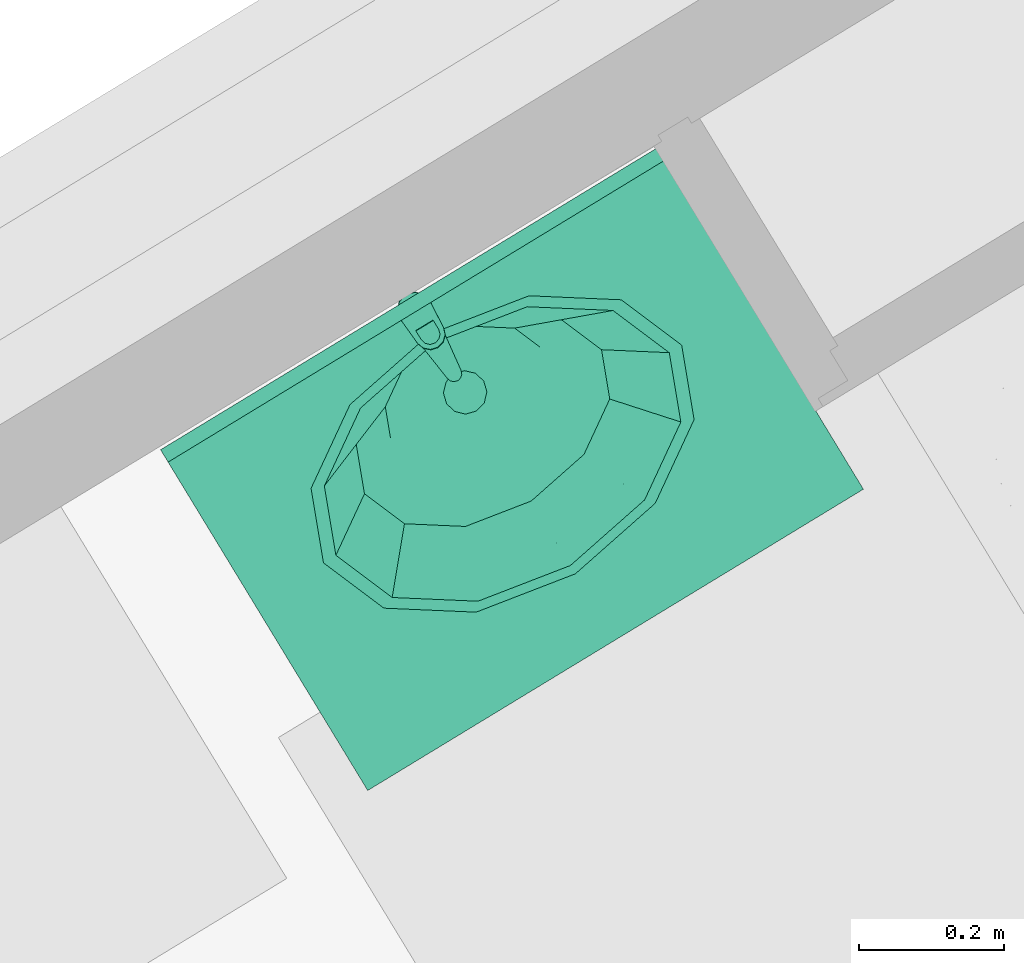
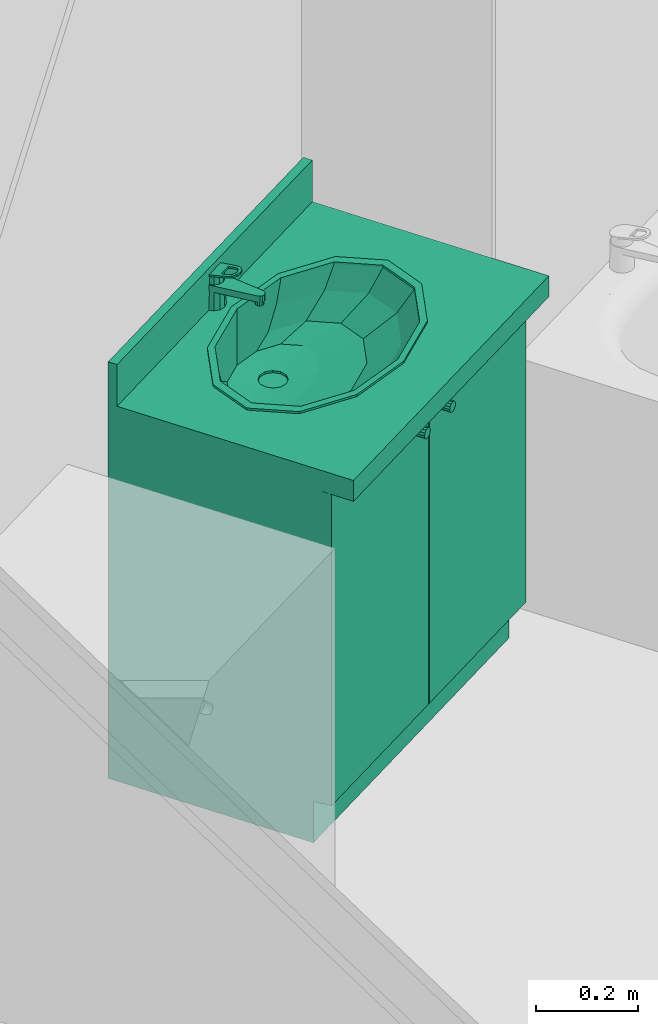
# One storey, part 84 of 90: 1 flow terminal.
"""IFC2X3 building model written with IfcOpenShell, lengths in metres."""

from ifc_helpers import new_model, entity, si_unit, converted_unit, derived_unit, money_unit, direction, frame, origin_with_axes, place, context, subcontext, project, spatial, open_shell, faceted_brep, surface_model, source, transform, mapped, type_object, element, save


model = new_model("IFC2X3")

# Units and contexts
model_context = context("Model", 3, precision=1e-05, world=origin_with_axes(), true_north=direction((0.0, 1.0)))
body_context = subcontext(model_context, "Body", "Model", "MODEL_VIEW")
ifc_project = project(units=[si_unit("LENGTHUNIT", "METRE"), si_unit("AREAUNIT", "SQUARE_METRE"), si_unit("VOLUMEUNIT", "CUBIC_METRE"), converted_unit("PLANEANGLEUNIT", "DEGREE", entity("IfcPlaneAngleMeasure", 0.0174532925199), si_unit("PLANEANGLEUNIT", "RADIAN"), dimensions=[0, 0, 0, 0, 0, 0, 0]), si_unit("SOLIDANGLEUNIT", "STERADIAN"), money_unit("EUR"), converted_unit("TIMEUNIT", "Year", entity("IfcTimeMeasure", 31556926.0), si_unit("TIMEUNIT", "SECOND"), dimensions=[0, 0, 1, 0, 0, 0, 0]), si_unit("MASSUNIT", "GRAM", prefix="KILO"), si_unit("THERMODYNAMICTEMPERATUREUNIT", "DEGREE_CELSIUS"), si_unit("LUMINOUSINTENSITYUNIT", "LUMEN"), si_unit("ENERGYUNIT", "JOULE", prefix="MEGA"), derived_unit("THERMALCONDUCTANCEUNIT", [(si_unit("POWERUNIT", "WATT"), 1), (si_unit("LENGTHUNIT", "METRE"), -1), (si_unit("THERMODYNAMICTEMPERATUREUNIT", "KELVIN"), -1)]), derived_unit("SPECIFICHEATCAPACITYUNIT", [(si_unit("ENERGYUNIT", "JOULE"), 1), (si_unit("MASSUNIT", "GRAM", prefix="KILO"), -1), (si_unit("THERMODYNAMICTEMPERATUREUNIT", "KELVIN"), -1)]), derived_unit("MASSDENSITYUNIT", [(si_unit("MASSUNIT", "GRAM", prefix="KILO"), 1), (si_unit("VOLUMEUNIT", "CUBIC_METRE"), -1)])], contexts=[model_context])

# Site, building, storey
site_placement = place(None, origin_with_axes())
site = spatial("IfcSite", under=ifc_project, at=site_placement, Name="Site", CompositionType="ELEMENT")
building_placement = place(site_placement, origin_with_axes())
building = spatial("IfcBuilding", under=site, at=building_placement, Name="Bâtiment", CompositionType="ELEMENT")
storey_placement = place(building_placement, frame((0.0, 0.0, 2.72), z_axis=(0.0, 0.0, 1.0), x_axis=(1.0, 0.0, 0.0)))
storey = spatial("IfcBuildingStorey", under=building, at=storey_placement, Name="R+1", CompositionType="ELEMENT", Elevation=2.72)

# Flow terminal
sanitary_terminal_type = type_object("IfcSanitaryTerminalType", Name="Lavabo sur meuble 23", PredefinedType="NOTDEFINED")
shared_shape = source(origin_with_axes(), body_context, "Body", "SurfaceModel", [
    faceted_brep([(0.0, 0.09, 0.0), (0.8, 0.09, 0.0), (0.8, 0.09, 0.1), (0.0, 0.09, 0.1), (0.0, 0.55, 0.0), (0.8, 0.55, 0.0), (0.8, 0.55, 0.1), (0.0, 0.55, 0.1)], [[[0, 1, 2, 3]], [[0, 4, 5, 1]], [[1, 5, 6, 2]], [[3, 2, 6, 7]], [[4, 0, 3, 7]], [[5, 4, 7, 6]]]),
    faceted_brep([(0.0, 0.07, 0.1), (0.02, 0.07, 0.1), (0.02, 0.07, 0.12), (0.0, 0.07, 0.12), (0.0, 0.55, 0.1), (0.02, 0.55, 0.1), (0.78, 0.55, 0.1), (0.8, 0.55, 0.1), (0.8, 0.07, 0.1), (0.78, 0.07, 0.1), (0.78, 0.07, 0.12), (0.8, 0.07, 0.12), (0.8, 0.55, 0.12), (0.78, 0.55, 0.12), (0.02, 0.55, 0.12), (0.0, 0.55, 0.12)], [[[0, 1, 2, 3]], [[0, 4, 5, 6, 7, 8, 9, 1]], [[1, 9, 10, 2]], [[3, 2, 10, 11, 12, 13, 14, 15]], [[4, 0, 3, 15]], [[5, 4, 15, 14]], [[6, 5, 14, 13]], [[7, 6, 13, 12]], [[8, 7, 12, 11]], [[9, 8, 11, 10]]]),
    faceted_brep([(0.0, 0.07, 0.12), (0.02, 0.07, 0.12), (0.02, 0.07, 0.85), (0.0, 0.07, 0.85), (0.0, 0.55, 0.12), (0.8, 0.55, 0.12), (0.8, 0.07, 0.12), (0.78, 0.07, 0.12), (0.78, 0.53, 0.12), (0.02, 0.53, 0.12), (0.02, 0.53, 0.85), (0.78, 0.53, 0.85), (0.78, 0.07, 0.85), (0.8, 0.07, 0.85), (0.8, 0.55, 0.85), (0.0, 0.55, 0.85)], [[[0, 1, 2, 3]], [[0, 4, 5, 6, 7, 8, 9, 1]], [[1, 9, 10, 2]], [[3, 2, 10, 11, 12, 13, 14, 15]], [[4, 0, 3, 15]], [[5, 4, 15, 14]], [[6, 5, 14, 13]], [[7, 6, 13, 12]], [[8, 7, 12, 11]], [[9, 8, 11, 10]]]),
    faceted_brep([(0.78, 0.07, 0.323333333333), (0.78, 0.53, 0.323333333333), (0.78, 0.53, 0.343333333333), (0.78, 0.07, 0.343333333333), (0.02, 0.07, 0.323333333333), (0.02, 0.53, 0.323333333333), (0.02, 0.53, 0.343333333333), (0.02, 0.07, 0.343333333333)], [[[0, 1, 2, 3]], [[0, 4, 5, 1]], [[1, 5, 6, 2]], [[3, 2, 6, 7]], [[4, 0, 3, 7]], [[5, 4, 7, 6]]]),
    faceted_brep([(0.78, 0.07, 0.566666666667), (0.78, 0.53, 0.566666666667), (0.78, 0.53, 0.586666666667), (0.78, 0.07, 0.586666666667), (0.02, 0.07, 0.566666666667), (0.02, 0.53, 0.566666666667), (0.02, 0.53, 0.586666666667), (0.02, 0.07, 0.586666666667)], [[[0, 1, 2, 3]], [[0, 4, 5, 1]], [[1, 5, 6, 2]], [[3, 2, 6, 7]], [[4, 0, 3, 7]], [[5, 4, 7, 6]]]),
    faceted_brep([(0.0, 0.55, 0.85), (0.8, 0.55, 0.85), (0.8, 0.0, 0.85), (0.0, 0.0, 0.85), (0.535, 0.144115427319, 0.85), (0.633826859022, 0.21, 0.85), (0.67, 0.3, 0.85), (0.633826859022, 0.39, 0.85), (0.535, 0.455884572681, 0.85), (0.4, 0.48, 0.85), (0.265, 0.455884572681, 0.85), (0.166173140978, 0.39, 0.85), (0.13, 0.3, 0.85), (0.166173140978, 0.21, 0.85), (0.265, 0.144115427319, 0.85), (0.4, 0.12, 0.85), (0.0, 0.55, 0.9), (0.8, 0.55, 0.9), (0.8, 0.0, 0.9), (0.0, 0.0, 0.9), (0.535, 0.144115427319, 0.9), (0.633826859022, 0.21, 0.9), (0.67, 0.3, 0.9), (0.633826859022, 0.39, 0.9), (0.535, 0.455884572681, 0.9), (0.4, 0.48, 0.9), (0.265, 0.455884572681, 0.9), (0.166173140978, 0.39, 0.9), (0.13, 0.3, 0.9), (0.166173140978, 0.21, 0.9), (0.265, 0.144115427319, 0.9), (0.4, 0.12, 0.9)], [[[0, 1, 2, 3], [4, 5, 6, 7, 8, 9, 10, 11, 12, 13, 14, 15]], [[0, 16, 17, 1]], [[1, 17, 18, 2]], [[2, 18, 19, 3]], [[3, 19, 16, 0]], [[20, 21, 5, 4]], [[21, 22, 6, 5]], [[22, 23, 7, 6]], [[23, 24, 8, 7]], [[24, 25, 9, 8]], [[25, 26, 10, 9]], [[26, 27, 11, 10]], [[27, 28, 12, 11]], [[28, 29, 13, 12]], [[29, 30, 14, 13]], [[30, 31, 15, 14]], [[31, 20, 4, 15]], [[18, 17, 16, 19], [24, 23, 22, 21, 20, 31, 30, 29, 28, 27, 26, 25]]]),
    faceted_brep([(0.0, 0.53, 0.9), (0.8, 0.53, 0.9), (0.8, 0.53, 1.0), (0.0, 0.53, 1.0), (0.0, 0.55, 0.9), (0.8, 0.55, 0.9), (0.8, 0.55, 1.0), (0.0, 0.55, 1.0)], [[[0, 1, 2, 3]], [[0, 4, 5, 1]], [[1, 5, 6, 2]], [[3, 2, 6, 7]], [[4, 0, 3, 7]], [[5, 4, 7, 6]]]),
    faceted_brep([(0.689, 0.3, 0.905), (0.689, 0.3, 0.9), (0.650281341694, 0.396691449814, 0.9), (0.650281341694, 0.396691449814, 0.905), (0.650281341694, 0.203308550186, 0.905), (0.650281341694, 0.203308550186, 0.9), (0.5445, 0.132525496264, 0.9), (0.4, 0.106617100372, 0.9), (0.2555, 0.132525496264, 0.9), (0.149718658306, 0.203308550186, 0.9), (0.111, 0.3, 0.9), (0.149718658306, 0.396691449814, 0.9), (0.2555, 0.467474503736, 0.9), (0.4, 0.493382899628, 0.9), (0.5445, 0.467474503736, 0.9), (0.669, 0.3, 0.9), (0.632960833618, 0.39, 0.9), (0.5345, 0.455884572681, 0.9), (0.4, 0.48, 0.9), (0.2655, 0.455884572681, 0.9), (0.167039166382, 0.39, 0.9), (0.131, 0.3, 0.9), (0.167039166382, 0.21, 0.9), (0.2655, 0.144115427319, 0.9), (0.4, 0.12, 0.9), (0.5345, 0.144115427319, 0.9), (0.632960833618, 0.21, 0.9), (0.5445, 0.467474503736, 0.905), (0.4, 0.493382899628, 0.905), (0.2555, 0.467474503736, 0.905), (0.149718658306, 0.396691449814, 0.905), (0.111, 0.3, 0.905), (0.149718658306, 0.203308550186, 0.905), (0.2555, 0.132525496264, 0.905), (0.4, 0.106617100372, 0.905), (0.5445, 0.132525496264, 0.905), (0.669, 0.3, 0.905), (0.632960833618, 0.21, 0.905), (0.5345, 0.144115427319, 0.905), (0.4, 0.12, 0.905), (0.2655, 0.144115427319, 0.905), (0.167039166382, 0.21, 0.905), (0.131, 0.3, 0.905), (0.167039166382, 0.39, 0.905), (0.2655, 0.455884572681, 0.905), (0.4, 0.48, 0.905), (0.5345, 0.455884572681, 0.905), (0.632960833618, 0.39, 0.905)], [[[0, 1, 2, 3]], [[4, 5, 1, 0]], [[1, 5, 6, 7, 8, 9, 10, 11, 12, 13, 14, 2], [15, 16, 17, 18, 19, 20, 21, 22, 23, 24, 25, 26]], [[3, 2, 14, 27]], [[0, 3, 27, 28, 29, 30, 31, 32, 33, 34, 35, 4], [36, 37, 38, 39, 40, 41, 42, 43, 44, 45, 46, 47]], [[35, 6, 5, 4]], [[34, 7, 6, 35]], [[33, 8, 7, 34]], [[32, 9, 8, 33]], [[31, 10, 9, 32]], [[30, 11, 10, 31]], [[29, 12, 11, 30]], [[28, 13, 12, 29]], [[27, 14, 13, 28]], [[47, 16, 15, 36]], [[46, 17, 16, 47]], [[45, 18, 17, 46]], [[44, 19, 18, 45]], [[43, 20, 19, 44]], [[42, 21, 20, 43]], [[41, 22, 21, 42]], [[40, 23, 22, 41]], [[39, 24, 23, 40]], [[38, 25, 24, 39]], [[37, 26, 25, 38]], [[36, 15, 26, 37]]]),
    surface_model("IfcShellBasedSurfaceModel", [(0.4, 0.48, 0.9), (0.4, 0.48, 0.848), (0.52105, 0.458296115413, 0.848), (0.5345, 0.455884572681, 0.9), (0.2655, 0.455884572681, 0.9), (0.27895, 0.458296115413, 0.848), (0.609664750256, 0.399, 0.848), (0.632960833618, 0.39, 0.9), (0.167039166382, 0.39, 0.9), (0.190335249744, 0.399, 0.848), (0.6421, 0.318, 0.848), (0.669, 0.3, 0.9), (0.131, 0.3, 0.9), (0.1579, 0.318, 0.848), (0.609664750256, 0.237, 0.848), (0.632960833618, 0.21, 0.9), (0.167039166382, 0.21, 0.9), (0.190335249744, 0.237, 0.848), (0.52105, 0.177703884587, 0.848), (0.5345, 0.144115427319, 0.9), (0.2655, 0.144115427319, 0.9), (0.27895, 0.177703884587, 0.848), (0.4, 0.156, 0.848), (0.4, 0.12, 0.9)], [open_shell([[[0, 1, 2, 3]], [[4, 5, 1, 0]], [[3, 2, 6, 7]], [[8, 9, 5, 4]], [[7, 6, 10, 11]], [[12, 13, 9, 8]], [[11, 10, 14, 15]], [[16, 17, 13, 12]], [[15, 14, 18, 19]], [[20, 21, 17, 16]], [[19, 18, 22, 23]], [[23, 22, 21, 20]]])]),
    surface_model("IfcShellBasedSurfaceModel", [(0.4, 0.48, 0.848), (0.4, 0.48, 0.796), (0.4956295, 0.462853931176, 0.796), (0.52105, 0.458296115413, 0.848), (0.27895, 0.458296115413, 0.848), (0.3043705, 0.462853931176, 0.796), (0.565635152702, 0.41601, 0.796), (0.609664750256, 0.399, 0.848), (0.190335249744, 0.399, 0.848), (0.234364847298, 0.41601, 0.796), (0.591259, 0.35202, 0.796), (0.6421, 0.318, 0.848), (0.1579, 0.318, 0.848), (0.208741, 0.35202, 0.796), (0.565635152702, 0.28803, 0.796), (0.609664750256, 0.237, 0.848), (0.190335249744, 0.237, 0.848), (0.234364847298, 0.28803, 0.796), (0.4956295, 0.241186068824, 0.796), (0.52105, 0.177703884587, 0.848), (0.27895, 0.177703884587, 0.848), (0.3043705, 0.241186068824, 0.796), (0.4, 0.22404, 0.796), (0.4, 0.156, 0.848)], [open_shell([[[0, 1, 2, 3]], [[4, 5, 1, 0]], [[3, 2, 6, 7]], [[8, 9, 5, 4]], [[7, 6, 10, 11]], [[12, 13, 9, 8]], [[11, 10, 14, 15]], [[16, 17, 13, 12]], [[15, 14, 18, 19]], [[20, 21, 17, 16]], [[19, 18, 22, 23]], [[23, 22, 21, 20]]])]),
    surface_model("IfcShellBasedSurfaceModel", [(0.4, 0.48, 0.796), (0.4, 0.48, 0.77), (0.460246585, 0.469197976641, 0.77), (0.4956295, 0.462853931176, 0.796), (0.3043705, 0.462853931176, 0.796), (0.339753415, 0.469197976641, 0.77), (0.504350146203, 0.4396863, 0.77), (0.565635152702, 0.41601, 0.796), (0.234364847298, 0.41601, 0.796), (0.295649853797, 0.4396863, 0.77), (0.52049317, 0.3993726, 0.77), (0.591259, 0.35202, 0.796), (0.208741, 0.35202, 0.796), (0.27950683, 0.3993726, 0.77), (0.504350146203, 0.3590589, 0.77), (0.565635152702, 0.28803, 0.796), (0.234364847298, 0.28803, 0.796), (0.295649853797, 0.3590589, 0.77), (0.460246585, 0.329547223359, 0.77), (0.4956295, 0.241186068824, 0.796), (0.3043705, 0.241186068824, 0.796), (0.339753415, 0.329547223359, 0.77), (0.4, 0.3187452, 0.77), (0.4, 0.22404, 0.796)], [open_shell([[[0, 1, 2, 3]], [[4, 5, 1, 0]], [[3, 2, 6, 7]], [[8, 9, 5, 4]], [[7, 6, 10, 11]], [[12, 13, 9, 8]], [[11, 10, 14, 15]], [[16, 17, 13, 12]], [[15, 14, 18, 19]], [[20, 21, 17, 16]], [[19, 18, 22, 23]], [[23, 22, 21, 20]]])]),
    surface_model("IfcShellBasedSurfaceModel", [(0.4, 0.48, 0.77), (0.415, 0.425353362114, 0.763), (0.460246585, 0.469197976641, 0.77), (0.4, 0.4293726, 0.763), (0.425980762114, 0.4143726, 0.763), (0.339753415, 0.469197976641, 0.77), (0.504350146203, 0.4396863, 0.77), (0.385, 0.425353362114, 0.763), (0.43, 0.3993726, 0.763), (0.295649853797, 0.4396863, 0.77), (0.52049317, 0.3993726, 0.77), (0.374019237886, 0.4143726, 0.763), (0.425980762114, 0.3843726, 0.763), (0.27950683, 0.3993726, 0.77), (0.504350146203, 0.3590589, 0.77), (0.37, 0.3993726, 0.763), (0.415, 0.373391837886, 0.763), (0.295649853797, 0.3590589, 0.77), (0.460246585, 0.329547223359, 0.77), (0.374019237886, 0.3843726, 0.763), (0.4, 0.3693726, 0.763), (0.339753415, 0.329547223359, 0.77), (0.4, 0.3187452, 0.77), (0.385, 0.373391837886, 0.763)], [open_shell([[[0, 1, 2]], [[0, 3, 1]], [[2, 1, 4]], [[5, 3, 0]], [[2, 4, 6]], [[5, 7, 3]], [[6, 4, 8]], [[9, 7, 5]], [[6, 8, 10]], [[9, 11, 7]], [[10, 8, 12]], [[13, 11, 9]], [[10, 12, 14]], [[13, 15, 11]], [[14, 12, 16]], [[17, 15, 13]], [[14, 16, 18]], [[17, 19, 15]], [[18, 16, 20]], [[21, 19, 17]], [[18, 20, 22]], [[21, 23, 19]], [[22, 20, 23]], [[22, 23, 21]]])]),
    surface_model("IfcShellBasedSurfaceModel", [(0.43, 0.3993726, 0.763), (0.43, 0.3993726, 0.758), (0.425980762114, 0.4143726, 0.758), (0.425980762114, 0.4143726, 0.763), (0.425980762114, 0.3843726, 0.763), (0.425980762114, 0.3843726, 0.758), (0.415, 0.373391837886, 0.758), (0.4, 0.3693726, 0.758), (0.385, 0.373391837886, 0.758), (0.374019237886, 0.3843726, 0.758), (0.37, 0.3993726, 0.758), (0.374019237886, 0.4143726, 0.758), (0.385, 0.425353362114, 0.758), (0.4, 0.4293726, 0.758), (0.415, 0.425353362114, 0.758), (0.415, 0.425353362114, 0.763), (0.415, 0.373391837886, 0.763), (0.4, 0.3693726, 0.763), (0.385, 0.373391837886, 0.763), (0.374019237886, 0.3843726, 0.763), (0.37, 0.3993726, 0.763), (0.374019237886, 0.4143726, 0.763), (0.385, 0.425353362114, 0.763), (0.4, 0.4293726, 0.763)], [open_shell([[[0, 1, 2, 3]], [[4, 5, 1, 0]], [[1, 5, 6, 7, 8, 9, 10, 11, 12, 13, 14, 2]], [[3, 2, 14, 15]], [[16, 6, 5, 4]], [[17, 7, 6, 16]], [[18, 8, 7, 17]], [[19, 9, 8, 18]], [[20, 10, 9, 19]], [[21, 11, 10, 20]], [[22, 12, 11, 21]], [[23, 13, 12, 22]], [[15, 14, 13, 23]]])]),
    faceted_brep([(0.4125, 0.554150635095, 0.9), (0.4, 0.5575, 0.9), (0.4, 0.553701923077, 0.975961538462), (0.410587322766, 0.550837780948, 0.976507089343), (0.421650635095, 0.545, 0.9), (0.425, 0.5325, 0.9), (0.421650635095, 0.52, 0.9), (0.4125, 0.510849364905, 0.9), (0.4, 0.5075, 0.9), (0.3875, 0.510849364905, 0.9), (0.378349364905, 0.52, 0.9), (0.375, 0.5325, 0.9), (0.378349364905, 0.545, 0.9), (0.3875, 0.554150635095, 0.9), (0.389412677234, 0.550837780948, 0.976507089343), (0.381726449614, 0.543050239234, 0.977990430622), (0.379, 0.5325, 0.98), (0.381899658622, 0.522049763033, 0.981990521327), (0.389585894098, 0.514462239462, 0.983435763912), (0.4, 0.511698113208, 0.983962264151), (0.410414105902, 0.514462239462, 0.983435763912), (0.418100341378, 0.522049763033, 0.981990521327), (0.421, 0.5325, 0.98), (0.418273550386, 0.543050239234, 0.977990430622)], [[[0, 1, 2, 3]], [[0, 4, 5, 6, 7, 8, 9, 10, 11, 12, 13, 1]], [[1, 13, 14, 2]], [[3, 2, 14, 15, 16, 17, 18, 19, 20, 21, 22, 23]], [[4, 0, 3, 23]], [[5, 4, 23, 22]], [[6, 5, 22, 21]], [[7, 6, 21, 20]], [[8, 7, 20, 19]], [[9, 8, 19, 18]], [[10, 9, 18, 17]], [[11, 10, 17, 16]], [[12, 11, 16, 15]], [[13, 12, 15, 14]]]),
    faceted_brep([(0.409, 0.4295, 0.935), (0.407794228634, 0.434, 0.935), (0.407794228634, 0.434, 0.945), (0.409, 0.4295, 0.945), (0.407794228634, 0.425, 0.935), (0.4045, 0.421705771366, 0.935), (0.4, 0.4205, 0.935), (0.3955, 0.421705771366, 0.935), (0.392205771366, 0.425, 0.935), (0.391, 0.4295, 0.935), (0.392205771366, 0.434, 0.935), (0.3955, 0.437294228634, 0.935), (0.4, 0.4385, 0.935), (0.4045, 0.437294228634, 0.935), (0.4045, 0.437294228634, 0.945), (0.4, 0.4385, 0.945), (0.3955, 0.437294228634, 0.945), (0.392205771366, 0.434, 0.945), (0.391, 0.4295, 0.945), (0.392205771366, 0.425, 0.945), (0.3955, 0.421705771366, 0.945), (0.4, 0.4205, 0.945), (0.4045, 0.421705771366, 0.945), (0.407794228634, 0.425, 0.945)], [[[0, 1, 2, 3]], [[0, 4, 5, 6, 7, 8, 9, 10, 11, 12, 13, 1]], [[1, 13, 14, 2]], [[3, 2, 14, 15, 16, 17, 18, 19, 20, 21, 22, 23]], [[4, 0, 3, 23]], [[5, 4, 23, 22]], [[6, 5, 22, 21]], [[7, 6, 21, 20]], [[8, 7, 20, 19]], [[9, 8, 19, 18]], [[10, 9, 18, 17]], [[11, 10, 17, 16]], [[12, 11, 16, 15]], [[13, 12, 15, 14]]]),
    faceted_brep([(0.387128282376, 0.552756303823, 0.96), (0.378272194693, 0.54269320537, 0.96), (0.3761946, 0.5294501, 0.96), (0.389088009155, 0.428111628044, 0.96), (0.390971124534, 0.423216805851, 0.96), (0.394906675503, 0.419750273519, 0.96), (0.400000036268, 0.41850003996, 0.96), (0.405093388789, 0.419750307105, 0.96), (0.409028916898, 0.423216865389, 0.96), (0.410912, 0.4281117, 0.96), (0.423805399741, 0.529450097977, 0.96), (0.421727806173, 0.542693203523, 0.96), (0.412871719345, 0.552756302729, 0.96), (0.40000000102, 0.556499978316, 0.96), (0.411, 0.551552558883, 0.96), (0.419052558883, 0.5435, 0.96), (0.422, 0.5325, 0.96), (0.419052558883, 0.5215, 0.96), (0.411, 0.513447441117, 0.96), (0.4, 0.5105, 0.96), (0.389, 0.513447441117, 0.96), (0.380947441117, 0.5215, 0.96), (0.378, 0.5325, 0.96), (0.380947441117, 0.5435, 0.96), (0.389, 0.551552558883, 0.96), (0.4, 0.5545, 0.96), (0.378272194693, 0.54269320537, 0.945), (0.387128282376, 0.552756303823, 0.945), (0.3761946, 0.5294501, 0.945), (0.389088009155, 0.428111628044, 0.945), (0.390971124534, 0.423216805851, 0.945), (0.394906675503, 0.419750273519, 0.945), (0.400000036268, 0.41850003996, 0.945), (0.405093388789, 0.419750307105, 0.945), (0.409028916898, 0.423216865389, 0.945), (0.410912, 0.4281117, 0.945), (0.423805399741, 0.529450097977, 0.945), (0.421727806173, 0.542693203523, 0.945), (0.412871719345, 0.552756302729, 0.945), (0.40000000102, 0.556499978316, 0.945), (0.411375, 0.552202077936, 0.945), (0.419702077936, 0.543875, 0.945), (0.42275, 0.5325, 0.945), (0.419702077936, 0.521125, 0.945), (0.411375, 0.512797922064, 0.945), (0.4, 0.50975, 0.945), (0.388625, 0.512797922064, 0.945), (0.380297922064, 0.521125, 0.945), (0.37725, 0.5325, 0.945), (0.380297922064, 0.543875, 0.945), (0.388625, 0.552202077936, 0.945), (0.4, 0.55525, 0.945)], [[[0, 1, 2, 3, 4, 5, 6, 7, 8, 9, 10, 11, 12, 13], [14, 15, 16, 17, 18, 19, 20, 21, 22, 23, 24, 25]], [[26, 1, 0, 27]], [[28, 2, 1, 26]], [[29, 3, 2, 28]], [[30, 4, 3, 29]], [[31, 5, 4, 30]], [[32, 6, 5, 31]], [[33, 7, 6, 32]], [[34, 8, 7, 33]], [[35, 9, 8, 34]], [[36, 10, 9, 35]], [[37, 11, 10, 36]], [[38, 12, 11, 37]], [[39, 13, 12, 38]], [[27, 0, 13, 39]], [[40, 41, 15, 14]], [[41, 42, 16, 15]], [[42, 43, 17, 16]], [[43, 44, 18, 17]], [[44, 45, 19, 18]], [[20, 19, 45, 46]], [[21, 20, 46, 47]], [[22, 21, 47, 48]], [[23, 22, 48, 49]], [[24, 23, 49, 50]], [[50, 51, 25, 24]], [[51, 40, 14, 25]], [[32, 31, 30, 29, 28, 26, 27, 39, 38, 37, 36, 35, 34, 33], [44, 43, 42, 41, 40, 51, 50, 49, 48, 47, 46, 45]]]),
    faceted_brep([(0.423893, 0.53080743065, 0.980322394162), (0.421296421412, 0.543274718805, 0.977947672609), (0.421296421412, 0.544023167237, 0.981877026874), (0.423893, 0.531555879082, 0.984251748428), (0.420945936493, 0.490663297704, 0.987968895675), (0.417663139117, 0.480985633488, 0.989812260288), (0.410061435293, 0.474036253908, 0.991135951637), (0.399999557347, 0.47151438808, 0.991616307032), (0.389937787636, 0.474036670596, 0.991135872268), (0.382336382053, 0.480986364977, 0.989812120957), (0.379054, 0.490664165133, 0.987968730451), (0.376106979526, 0.530807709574, 0.980322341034), (0.378703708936, 0.543274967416, 0.977947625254), (0.38752831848, 0.552591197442, 0.976173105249), (0.400000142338, 0.556031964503, 0.975517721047), (0.41247192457, 0.552591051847, 0.976173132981), (0.414, 0.506959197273, 0.984864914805), (0.386, 0.506959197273, 0.984864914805), (0.386, 0.492143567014, 0.987686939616), (0.387875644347, 0.485267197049, 0.988996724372), (0.393, 0.480233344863, 0.989955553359), (0.4, 0.478390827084, 0.990306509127), (0.407, 0.480233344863, 0.989955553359), (0.412124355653, 0.485267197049, 0.988996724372), (0.414, 0.492143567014, 0.987686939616), (0.41247192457, 0.553339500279, 0.980102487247), (0.400000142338, 0.556780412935, 0.979447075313), (0.38752831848, 0.553339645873, 0.980102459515), (0.378703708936, 0.544023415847, 0.98187697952), (0.376106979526, 0.531556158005, 0.984251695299), (0.379054, 0.491412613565, 0.991898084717), (0.382336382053, 0.481734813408, 0.993741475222), (0.389937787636, 0.474785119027, 0.995065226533), (0.399999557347, 0.472262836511, 0.995545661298), (0.410061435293, 0.47478470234, 0.995065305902), (0.417663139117, 0.48173408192, 0.993741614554), (0.420945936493, 0.491411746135, 0.991898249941), (0.414, 0.507707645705, 0.988794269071), (0.414, 0.492892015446, 0.991616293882), (0.412124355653, 0.486015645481, 0.992926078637), (0.407, 0.480981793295, 0.993884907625), (0.4, 0.479139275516, 0.994235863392), (0.393, 0.480981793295, 0.993884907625), (0.387875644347, 0.486015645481, 0.992926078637), (0.386, 0.492892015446, 0.991616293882), (0.386, 0.507707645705, 0.988794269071)], [[[0, 1, 2, 3]], [[0, 4, 5, 6, 7, 8, 9, 10, 11, 12, 13, 14, 15, 1], [16, 17, 18, 19, 20, 21, 22, 23, 24]], [[1, 15, 25, 2]], [[3, 2, 25, 26, 27, 28, 29, 30, 31, 32, 33, 34, 35, 36], [37, 38, 39, 40, 41, 42, 43, 44, 45]], [[4, 0, 3, 36]], [[5, 4, 36, 35]], [[6, 5, 35, 34]], [[7, 6, 34, 33]], [[8, 7, 33, 32]], [[9, 8, 32, 31]], [[10, 9, 31, 30]], [[11, 10, 30, 29]], [[12, 11, 29, 28]], [[13, 12, 28, 27]], [[14, 13, 27, 26]], [[15, 14, 26, 25]], [[17, 16, 37, 45]], [[18, 17, 45, 44]], [[19, 18, 44, 43]], [[20, 19, 43, 42]], [[21, 20, 42, 41]], [[22, 21, 41, 40]], [[23, 22, 40, 39]], [[24, 23, 39, 38]], [[16, 24, 38, 37]]]),
    faceted_brep([(0.0015, 0.07, 0.1015), (0.3985, 0.07, 0.1015), (0.3985, 0.05, 0.1015), (0.0015, 0.05, 0.1015), (0.0015, 0.07, 0.8485), (0.3985, 0.07, 0.8485), (0.3985, 0.05, 0.8485), (0.0015, 0.05, 0.8485)], [[[0, 1, 2, 3]], [[0, 4, 5, 1]], [[1, 5, 6, 2]], [[3, 2, 6, 7]], [[4, 0, 3, 7]], [[5, 4, 7, 6]]]),
    faceted_brep([(0.358892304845, 0.05, 0.7855), (0.3545, 0.05, 0.781107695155), (0.3485, 0.05, 0.7795), (0.3425, 0.05, 0.781107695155), (0.338107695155, 0.05, 0.7855), (0.3365, 0.05, 0.7915), (0.338107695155, 0.05, 0.7975), (0.3425, 0.05, 0.801892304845), (0.3485, 0.05, 0.8035), (0.3545, 0.05, 0.801892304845), (0.358892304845, 0.05, 0.7975), (0.3605, 0.05, 0.7915), (0.358892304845, 0.025, 0.7855), (0.3545, 0.025, 0.781107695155), (0.3485, 0.025, 0.7795), (0.3425, 0.025, 0.781107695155), (0.338107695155, 0.025, 0.7855), (0.3365, 0.025, 0.7915), (0.338107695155, 0.025, 0.7975), (0.3425, 0.025, 0.801892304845), (0.3485, 0.025, 0.8035), (0.3545, 0.025, 0.801892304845), (0.358892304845, 0.025, 0.7975), (0.3605, 0.025, 0.7915)], [[[0, 1, 2, 3, 4, 5, 6, 7, 8, 9, 10, 11]], [[1, 0, 12, 13]], [[2, 1, 13, 14]], [[3, 2, 14, 15]], [[4, 3, 15, 16]], [[5, 4, 16, 17]], [[6, 5, 17, 18]], [[7, 6, 18, 19]], [[8, 7, 19, 20]], [[9, 8, 20, 21]], [[10, 9, 21, 22]], [[11, 10, 22, 23]], [[0, 11, 23, 12]], [[12, 23, 22, 21, 20, 19, 18, 17, 16, 15, 14, 13]]]),
    faceted_brep([(0.7985, 0.07, 0.1015), (0.7985, 0.05, 0.1015), (0.4015, 0.05, 0.1015), (0.4015, 0.07, 0.1015), (0.7985, 0.07, 0.8485), (0.7985, 0.05, 0.8485), (0.4015, 0.05, 0.8485), (0.4015, 0.07, 0.8485)], [[[0, 1, 2, 3]], [[4, 5, 1, 0]], [[1, 5, 6, 2]], [[3, 2, 6, 7]], [[0, 3, 7, 4]], [[7, 6, 5, 4]]]),
    faceted_brep([(0.441107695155, 0.05, 0.7855), (0.4395, 0.05, 0.7915), (0.441107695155, 0.05, 0.7975), (0.4455, 0.05, 0.801892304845), (0.4515, 0.05, 0.8035), (0.4575, 0.05, 0.801892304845), (0.461892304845, 0.05, 0.7975), (0.4635, 0.05, 0.7915), (0.461892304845, 0.05, 0.7855), (0.4575, 0.05, 0.781107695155), (0.4515, 0.05, 0.7795), (0.4455, 0.05, 0.781107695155), (0.441107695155, 0.025, 0.7855), (0.4395, 0.025, 0.7915), (0.441107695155, 0.025, 0.7975), (0.4455, 0.025, 0.801892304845), (0.4515, 0.025, 0.8035), (0.4575, 0.025, 0.801892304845), (0.461892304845, 0.025, 0.7975), (0.4635, 0.025, 0.7915), (0.461892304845, 0.025, 0.7855), (0.4575, 0.025, 0.781107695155), (0.4515, 0.025, 0.7795), (0.4455, 0.025, 0.781107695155)], [[[0, 1, 2, 3, 4, 5, 6, 7, 8, 9, 10, 11]], [[0, 12, 13, 1]], [[1, 13, 14, 2]], [[2, 14, 15, 3]], [[3, 15, 16, 4]], [[4, 16, 17, 5]], [[5, 17, 18, 6]], [[6, 18, 19, 7]], [[7, 19, 20, 8]], [[8, 20, 21, 9]], [[9, 21, 22, 10]], [[10, 22, 23, 11]], [[11, 23, 12, 0]], [[12, 23, 22, 21, 20, 19, 18, 17, 16, 15, 14, 13]]]),
])
flow_terminal_placement = place(storey_placement, frame((-3.63629069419, 22.5679956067, 0.0), z_axis=(0.0, 0.0, 1.0), x_axis=(0.85453953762, 0.51938634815, 0.0)))
element("IfcFlowTerminal", 1, at=flow_terminal_placement, inside=storey, type_object=sanitary_terminal_type, Name="MOB-002", ObjectType="SANITARY_TERMINAL", context=body_context, shape_type="MappedRepresentation", body=[
    mapped(shared_shape, transform((0.0, 0.0, 0.0))),
])

save(model, "model.ifc")
